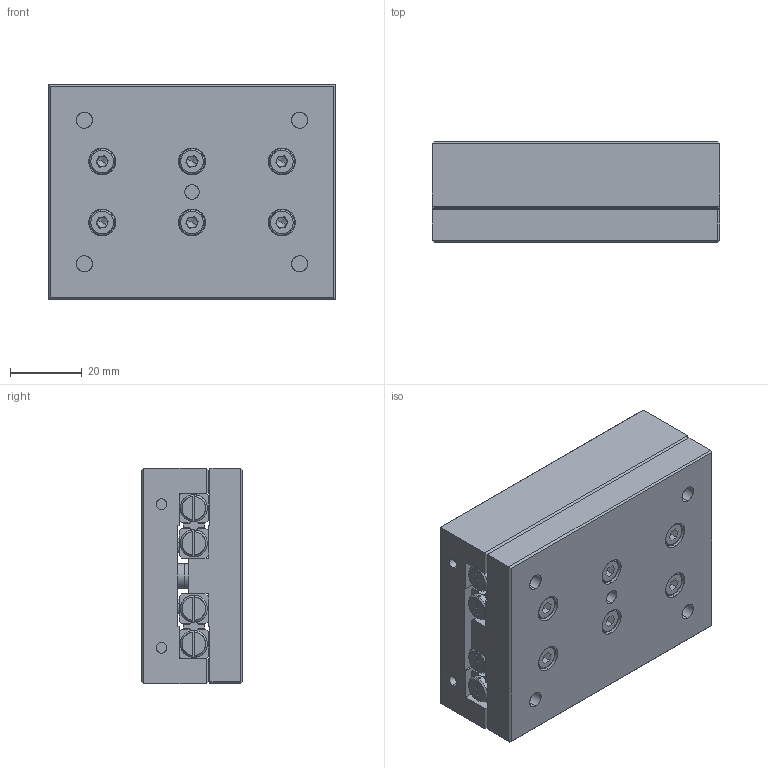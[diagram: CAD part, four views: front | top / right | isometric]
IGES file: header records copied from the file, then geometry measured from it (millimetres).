
Start section: SolidWorks IGES file using analytic representation for surfaces
Global section: file name: C:\Documents and Settings\IanO.IANOHOME\My Documents\Wix and Auto CAD Work\CAD Models\Parametric Models\Auto Models\L1020\L1020_IGES\L1020.060-080.igs; native system: SolidWorks 2009; preprocessor: SolidWorks 2009; author: IanO; date: 110922.162603; units: millimetre
Bounding box: 80 x 28 x 60 mm (x, y, z)
Surface area: 50849.4 mm2 (no closed solid volume)
Topology: 0 solids, 0 shells, 1040 faces, 13740 edges, 13710 vertices
Faces by surface type: bspline 666, revolution 374
